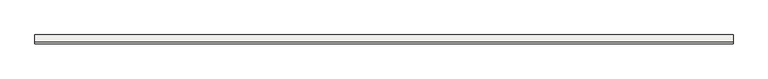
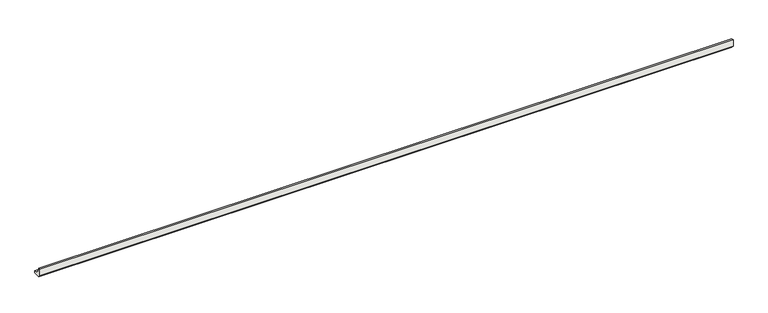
"""IFC4 building model written with IfcOpenShell, lengths in millimetres: slab geometry, ROSA GRES_188 : Pieza 188_Tresor_Java_Anti-Slip."""

import ifcopenshell
import ifcopenshell.guid

model = None  # the IFC model being written
_history = None  # IfcOwnerHistory: only IFC2X3 demands one
_inside = {}  # id of a spatial element -> (the spatial element, [elements in it])
_under = {}  # id of a project, library or spatial element -> (it, [spatial elements below it])
_declared = {}  # id of a project -> (the project, [libraries it declares])
_typed = {}  # id of a type object -> (the type object, [elements of that type])
_made_of = {}  # id of a material, layer set ... -> (it, [elements and type objects made of it])


def new_model(schema):
    """Start an empty IFC model of exactly this schema.

    Asked for "IFC4X3", IfcOpenShell would pick the latest addendum, in which some entities
    have other attributes; the version numbers below select the first issue.
    IFC2X3 requires an IfcOwnerHistory on every rooted entity: one is made here for all.
    """
    global model, _history
    if schema == "IFC4X3":
        model = ifcopenshell.file(schema_version=(4, 3, 0, 0))
    else:
        model = ifcopenshell.file(schema=schema)
    _inside.clear()
    _under.clear()
    _declared.clear()
    _typed.clear()
    _made_of.clear()
    _history = None
    if model.schema == "IFC2X3":
        org = make("IfcOrganization", Name="unknown")
        user = make(
            "IfcPersonAndOrganization",
            ThePerson=make("IfcPerson", FamilyName="unknown"),
            TheOrganization=org,
        )
        app = make(
            "IfcApplication",
            ApplicationDeveloper=org,
            Version="unknown",
            ApplicationFullName="unknown",
            ApplicationIdentifier="unknown",
        )
        _history = make(
            "IfcOwnerHistory",
            OwningUser=user,
            OwningApplication=app,
            ChangeAction="ADDED",
            CreationDate=0,
        )
    return model


def make(cls, **values):
    """One entity of the class cls with the attributes given. An attribute that is None is left unset."""
    return model.create_entity(
        cls, **{name: value for name, value in values.items() if value is not None}
    )


def rooted(cls, **values):
    """An entity with a GlobalId (a new one), such as an element, a storey or a relation."""
    return make(cls, GlobalId=ifcopenshell.guid.new(), OwnerHistory=_history, **values)


def si_unit(unit_type, name, prefix=None):
    """IfcSIUnit, for example si_unit("LENGTHUNIT", "METRE", prefix="MILLI")."""
    return make("IfcSIUnit", UnitType=unit_type, Prefix=prefix, Name=name)


def assignment(units):
    """IfcUnitAssignment: the units of a project."""
    return None if units is None else make("IfcUnitAssignment", Units=units)


def point(xyz):
    """IfcCartesianPoint."""
    return None if xyz is None else make("IfcCartesianPoint", Coordinates=xyz)


def direction(xyz):
    """IfcDirection."""
    return None if xyz is None else make("IfcDirection", DirectionRatios=xyz)


def frame(location, z_axis=None, x_axis=None):
    """IfcAxis2Placement3D, a coordinate frame: its origin and axes. An axis left out is left unset."""
    return make(
        "IfcAxis2Placement3D",
        Location=point(location),
        Axis=direction(z_axis),
        RefDirection=direction(x_axis),
    )


def frame_2d(location, x_axis=None):
    """IfcAxis2Placement2D, a coordinate frame in the plane: its origin and x axis."""
    return make(
        "IfcAxis2Placement2D", Location=point(location), RefDirection=direction(x_axis)
    )


def origin():
    """The frame at (0, 0, 0) with its axes left unset."""
    return frame((0.0, 0.0, 0.0))


def place(relative_to, where):
    """IfcLocalPlacement: puts the frame where relative to a parent placement (None: the world)."""
    return make(
        "IfcLocalPlacement", PlacementRelTo=relative_to, RelativePlacement=where
    )


def context(
    kind, dimensions, precision=None, world=None, true_north=None, identifier=None
):
    """IfcGeometricRepresentationContext, for example the 3D "Model" context."""
    return make(
        "IfcGeometricRepresentationContext",
        ContextIdentifier=identifier,
        ContextType=kind,
        CoordinateSpaceDimension=dimensions,
        Precision=precision,
        WorldCoordinateSystem=world,
        TrueNorth=true_north,
    )


def project(units=None, contexts=None):
    """IfcProject with its units and contexts."""
    return rooted(
        "IfcProject",
        Name="project",
        RepresentationContexts=contexts,
        UnitsInContext=assignment(units),
    )


def spatial(cls, under=None, at=None, **own):
    """A site, building, storey or space (cls), placed at a placement, below another one or the project."""
    s = rooted(cls, ObjectPlacement=at, **own)
    if under is not None:
        _under.setdefault(under.id(), (under, []))[1].append(s)
    return s


def polyline(points):
    """IfcPolyline through the points."""
    return make("IfcPolyline", Points=[point(p) for p in points])


def circle_curve(where, radius):
    """IfcCircle in the frame where."""
    return make("IfcCircle", Position=where, Radius=radius)


def trimmed(basis, trim1, trim2, sense, master):
    """IfcTrimmedCurve: the piece of a basis curve between two trims."""
    return make(
        "IfcTrimmedCurve",
        BasisCurve=basis,
        Trim1=trim1,
        Trim2=trim2,
        SenseAgreement=sense,
        MasterRepresentation=master,
    )


def segment(curve, same_sense, transition):
    """IfcCompositeCurveSegment."""
    return make(
        "IfcCompositeCurveSegment",
        Transition=transition,
        SameSense=same_sense,
        ParentCurve=curve,
    )


def composite_curve(segments, self_intersect=None):
    """IfcCompositeCurve: segments joined end to end."""
    return make("IfcCompositeCurve", Segments=segments, SelfIntersect=self_intersect)


def outline(outer, holes=None, kind="AREA"):
    """IfcArbitraryClosedProfileDef: a profile drawn as a closed curve; with holes, ...WithVoids."""
    if holes is None:
        return make("IfcArbitraryClosedProfileDef", ProfileType=kind, OuterCurve=outer)
    return make(
        "IfcArbitraryProfileDefWithVoids",
        ProfileType=kind,
        OuterCurve=outer,
        InnerCurves=holes,
    )


def extrude(swept, where, along, depth):
    """IfcExtrudedAreaSolid: the profile swept, set in the frame where, extruded along a direction by depth."""
    return make(
        "IfcExtrudedAreaSolid",
        SweptArea=swept,
        Position=where,
        ExtrudedDirection=direction(along),
        Depth=depth,
    )


def shape(context_of_items, identifier, shape_type, items):
    """IfcShapeRepresentation: the items that make up one representation, for example the "Body"."""
    return make(
        "IfcShapeRepresentation",
        ContextOfItems=context_of_items,
        RepresentationIdentifier=identifier,
        RepresentationType=shape_type,
        Items=items,
    )


def source(mapping_origin, context_of_items, identifier, shape_type, items):
    """IfcRepresentationMap: a shape defined once, which mapped items show again and again."""
    return make(
        "IfcRepresentationMap",
        MappingOrigin=mapping_origin,
        MappedRepresentation=shape(context_of_items, identifier, shape_type, items),
    )


def transform(
    local_origin,
    x_axis=None,
    y_axis=None,
    z_axis=None,
    scale=None,
    scale2=None,
    scale3=None,
    uniform=True,
):
    """IfcCartesianTransformationOperator3D, or its non-uniform kind. x_axis, y_axis, z_axis: its Axis1, 2, 3."""
    if uniform:
        return make(
            "IfcCartesianTransformationOperator3D",
            Axis1=direction(x_axis),
            Axis2=direction(y_axis),
            LocalOrigin=point(local_origin),
            Scale=scale,
            Axis3=direction(z_axis),
        )
    return make(
        "IfcCartesianTransformationOperator3DnonUniform",
        Axis1=direction(x_axis),
        Axis2=direction(y_axis),
        LocalOrigin=point(local_origin),
        Scale=scale,
        Axis3=direction(z_axis),
        Scale2=scale2,
        Scale3=scale3,
    )


def mapped(mapping_source, mapping_target):
    """IfcMappedItem: shows the shape of a source again, moved by a transform."""
    return make(
        "IfcMappedItem", MappingSource=mapping_source, MappingTarget=mapping_target
    )


def made_of(thing, what):
    """Note that an element or type object is made of a material, layer set ...; save() writes the relation."""
    if what is not None:
        _made_of.setdefault(what.id(), (what, []))[1].append(thing)
    return thing


def element(
    cls,
    number,
    at=None,
    inside=None,
    cuts=None,
    type_object=None,
    material=None,
    context=None,
    identifier="Body",
    shape_type=None,
    held_by="IfcProductDefinitionShape",
    body=None,
    shapes=None,
    **own,
):
    """One element of the class cls, such as IfcWall. Its Tag is "e" and its number.

    at: its placement. inside: the storey or other place that contains it. cuts: it is an
    opening in that element (IfcRelVoidsElement). A single representation is given by context,
    identifier, shape_type and body (its items); several are given by shapes. held_by: the class
    of the entity that holds the representations. save() writes the other relations.
    """
    e = rooted(cls, Tag="e%d" % number, ObjectPlacement=at, **own)
    if body is not None:
        shapes = [shape(context, identifier, shape_type, body)]
    if shapes is not None:
        e.Representation = make(held_by, Representations=shapes)
    if inside is not None:
        _inside.setdefault(inside.id(), (inside, []))[1].append(e)
    if cuts is not None:
        rooted(
            "IfcRelVoidsElement", RelatingBuildingElement=cuts, RelatedOpeningElement=e
        )
    if type_object is not None:
        _typed.setdefault(type_object.id(), (type_object, []))[1].append(e)
    return made_of(e, material)


def aggregate(whole, parts):
    """IfcRelAggregates: a whole, such as a stair, and the parts it consists of."""
    return rooted("IfcRelAggregates", RelatingObject=whole, RelatedObjects=parts)


def save(model, path):
    """Write the relations noted so far, then the file.

    IfcRelAggregates (storeys below a building ...), IfcRelContainedInSpatialStructure (elements
    in a storey), IfcRelDefinesByType, IfcRelAssociatesMaterial and IfcRelDeclares: one each for
    every whole, place, type object, material and project.
    """
    for whole, parts in _under.values():
        aggregate(whole, parts)
    for where, things in _inside.values():
        rooted(
            "IfcRelContainedInSpatialStructure",
            RelatedElements=things,
            RelatingStructure=where,
        )
    for kind, things in _typed.values():
        rooted("IfcRelDefinesByType", RelatedObjects=things, RelatingType=kind)
    for what, things in _made_of.values():
        rooted("IfcRelAssociatesMaterial", RelatedObjects=things, RelatingMaterial=what)
    for by, libraries in _declared.values():
        rooted("IfcRelDeclares", RelatingContext=by, RelatedDefinitions=libraries)
    model.write(path)


def slab_d3536b05(model_context):
    return source(origin(), model_context, "Body", "SweptSolid", [
        extrude(outline(composite_curve([segment(polyline([(0.0, 8.7114978), (0.0, 40.0), (9.9734114, 40.0)]), True, "CONTINUOUS"), segment(trimmed(circle_curve(frame_2d((39.9955547, 39.9955547)), 30.0221435), [point((9.9734114, 40.0))], [point((40.0, 9.9734114))], True, "CARTESIAN"), True, "CONTINUOUS"), segment(polyline([(40.0, 9.9734114), (40.0, 0.0), (8.7114978, 0.0), (0.0, 8.7114978)]), True, "CONTINUOUS")], self_intersect=False)), frame((0.0, 0.0, 0.0), z_axis=(1.0, 0.0, 0.0), x_axis=(0.0, 1.0, 0.0)), (0.0, 0.0, 1.0), 3158.6968229),
    ])


if __name__ == "__main__":
    model = new_model("IFC4")
    model_context = context("Model", 3, world=origin())
    ifc_project = project(units=[si_unit("LENGTHUNIT", "METRE", prefix="MILLI")], contexts=[model_context])
    site = spatial("IfcSite", under=ifc_project)
    building = spatial("IfcBuilding", under=site)
    placement = place(None, origin())
    slab_shape = slab_d3536b05(model_context)
    element("IfcSlab", 1, ObjectType="ROSA GRES_188 : Pieza 188_Tresor_Java_Anti-Slip", at=placement, inside=building, context=model_context, shape_type="MappedRepresentation", body=[
        mapped(slab_shape, transform((0.0, 0.0, 0.0), x_axis=(1.0, 0.0, 0.0), y_axis=(0.0, 1.0, 0.0), z_axis=(0.0, 0.0, 1.0))),
    ])
    save(model, "model.ifc")
